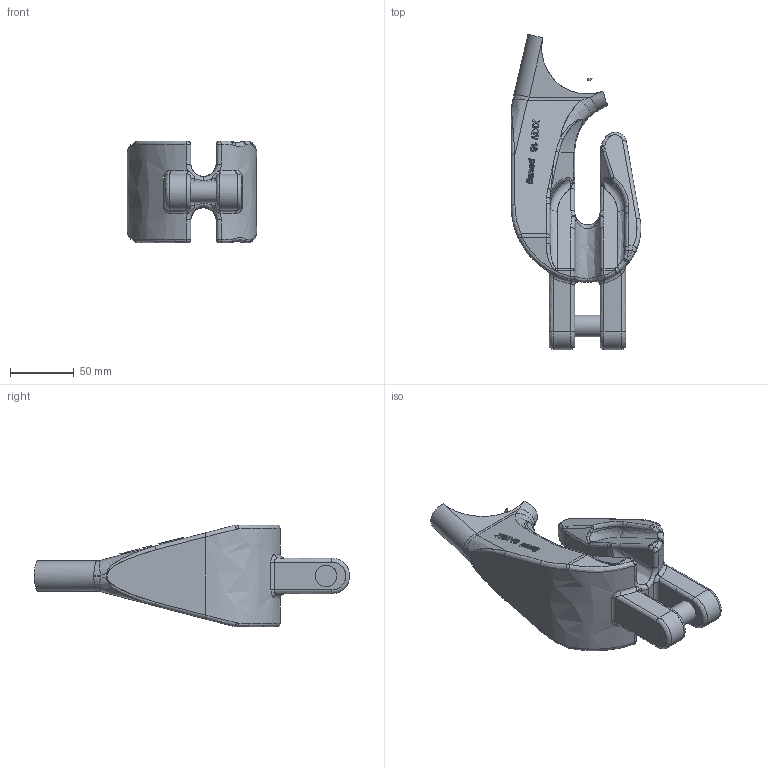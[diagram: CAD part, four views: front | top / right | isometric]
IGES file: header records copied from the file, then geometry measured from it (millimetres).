
Global section: file name: L:\users\SC\3D Kundenmodelle\UG Zg der Ableitung G100\XKW Kundenmodell\XKW 16 Kundenmodell\pewag_XKW_16.igs; native system: NX V4.0; preprocessor: UGS NX IGES V4.0; date: 20100201.123733; units: millimetre
Bounding box: 102 x 247.77 x 80 mm (x, y, z)
Surface area: 81899.9 mm2 (no closed solid volume)
Topology: 0 solids, 0 shells, 470 faces, 2582 edges, 2555 vertices
Faces by surface type: bspline 470
